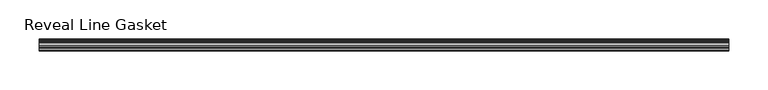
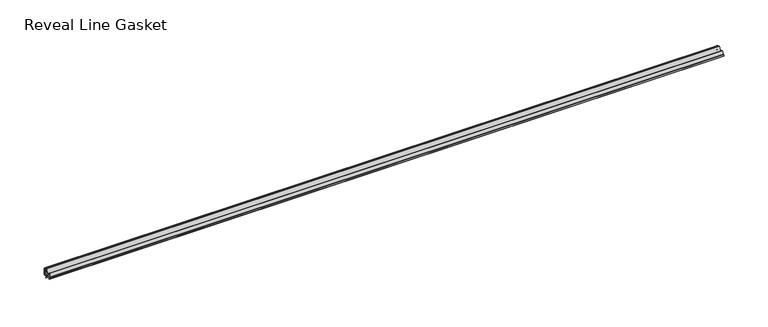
"""IFC4 building model written with IfcOpenShell, lengths in millimetres: proxy geometry, Accessories-Teknion-FHGR-AI_Healthcare-Reveal_Line_Gasket(Horizontal)-R2022 : Reveal Line Gasket."""

import ifcopenshell
import ifcopenshell.guid

model = None  # the IFC model being written
_history = None  # IfcOwnerHistory: only IFC2X3 demands one
_inside = {}  # id of a spatial element -> (the spatial element, [elements in it])
_under = {}  # id of a project, library or spatial element -> (it, [spatial elements below it])
_declared = {}  # id of a project -> (the project, [libraries it declares])
_typed = {}  # id of a type object -> (the type object, [elements of that type])
_made_of = {}  # id of a material, layer set ... -> (it, [elements and type objects made of it])


def new_model(schema):
    """Start an empty IFC model of exactly this schema.

    Asked for "IFC4X3", IfcOpenShell would pick the latest addendum, in which some entities
    have other attributes; the version numbers below select the first issue.
    IFC2X3 requires an IfcOwnerHistory on every rooted entity: one is made here for all.
    """
    global model, _history
    if schema == "IFC4X3":
        model = ifcopenshell.file(schema_version=(4, 3, 0, 0))
    else:
        model = ifcopenshell.file(schema=schema)
    _inside.clear()
    _under.clear()
    _declared.clear()
    _typed.clear()
    _made_of.clear()
    _history = None
    if model.schema == "IFC2X3":
        org = make("IfcOrganization", Name="unknown")
        user = make(
            "IfcPersonAndOrganization",
            ThePerson=make("IfcPerson", FamilyName="unknown"),
            TheOrganization=org,
        )
        app = make(
            "IfcApplication",
            ApplicationDeveloper=org,
            Version="unknown",
            ApplicationFullName="unknown",
            ApplicationIdentifier="unknown",
        )
        _history = make(
            "IfcOwnerHistory",
            OwningUser=user,
            OwningApplication=app,
            ChangeAction="ADDED",
            CreationDate=0,
        )
    return model


def make(cls, **values):
    """One entity of the class cls with the attributes given. An attribute that is None is left unset."""
    return model.create_entity(
        cls, **{name: value for name, value in values.items() if value is not None}
    )


def rooted(cls, **values):
    """An entity with a GlobalId (a new one), such as an element, a storey or a relation."""
    return make(cls, GlobalId=ifcopenshell.guid.new(), OwnerHistory=_history, **values)


def si_unit(unit_type, name, prefix=None):
    """IfcSIUnit, for example si_unit("LENGTHUNIT", "METRE", prefix="MILLI")."""
    return make("IfcSIUnit", UnitType=unit_type, Prefix=prefix, Name=name)


def assignment(units):
    """IfcUnitAssignment: the units of a project."""
    return None if units is None else make("IfcUnitAssignment", Units=units)


def point(xyz):
    """IfcCartesianPoint."""
    return None if xyz is None else make("IfcCartesianPoint", Coordinates=xyz)


def direction(xyz):
    """IfcDirection."""
    return None if xyz is None else make("IfcDirection", DirectionRatios=xyz)


def frame(location, z_axis=None, x_axis=None):
    """IfcAxis2Placement3D, a coordinate frame: its origin and axes. An axis left out is left unset."""
    return make(
        "IfcAxis2Placement3D",
        Location=point(location),
        Axis=direction(z_axis),
        RefDirection=direction(x_axis),
    )


def frame_2d(location, x_axis=None):
    """IfcAxis2Placement2D, a coordinate frame in the plane: its origin and x axis."""
    return make(
        "IfcAxis2Placement2D", Location=point(location), RefDirection=direction(x_axis)
    )


def origin():
    """The frame at (0, 0, 0) with its axes left unset."""
    return frame((0.0, 0.0, 0.0))


def place(relative_to, where):
    """IfcLocalPlacement: puts the frame where relative to a parent placement (None: the world)."""
    return make(
        "IfcLocalPlacement", PlacementRelTo=relative_to, RelativePlacement=where
    )


def context(
    kind, dimensions, precision=None, world=None, true_north=None, identifier=None
):
    """IfcGeometricRepresentationContext, for example the 3D "Model" context."""
    return make(
        "IfcGeometricRepresentationContext",
        ContextIdentifier=identifier,
        ContextType=kind,
        CoordinateSpaceDimension=dimensions,
        Precision=precision,
        WorldCoordinateSystem=world,
        TrueNorth=true_north,
    )


def project(units=None, contexts=None):
    """IfcProject with its units and contexts."""
    return rooted(
        "IfcProject",
        Name="project",
        RepresentationContexts=contexts,
        UnitsInContext=assignment(units),
    )


def spatial(cls, under=None, at=None, **own):
    """A site, building, storey or space (cls), placed at a placement, below another one or the project."""
    s = rooted(cls, ObjectPlacement=at, **own)
    if under is not None:
        _under.setdefault(under.id(), (under, []))[1].append(s)
    return s


def polyline(points):
    """IfcPolyline through the points."""
    return make("IfcPolyline", Points=[point(p) for p in points])


def circle_curve(where, radius):
    """IfcCircle in the frame where."""
    return make("IfcCircle", Position=where, Radius=radius)


def trimmed(basis, trim1, trim2, sense, master):
    """IfcTrimmedCurve: the piece of a basis curve between two trims."""
    return make(
        "IfcTrimmedCurve",
        BasisCurve=basis,
        Trim1=trim1,
        Trim2=trim2,
        SenseAgreement=sense,
        MasterRepresentation=master,
    )


def segment(curve, same_sense, transition):
    """IfcCompositeCurveSegment."""
    return make(
        "IfcCompositeCurveSegment",
        Transition=transition,
        SameSense=same_sense,
        ParentCurve=curve,
    )


def composite_curve(segments, self_intersect=None):
    """IfcCompositeCurve: segments joined end to end."""
    return make("IfcCompositeCurve", Segments=segments, SelfIntersect=self_intersect)


def outline(outer, holes=None, kind="AREA"):
    """IfcArbitraryClosedProfileDef: a profile drawn as a closed curve; with holes, ...WithVoids."""
    if holes is None:
        return make("IfcArbitraryClosedProfileDef", ProfileType=kind, OuterCurve=outer)
    return make(
        "IfcArbitraryProfileDefWithVoids",
        ProfileType=kind,
        OuterCurve=outer,
        InnerCurves=holes,
    )


def extrude(swept, where, along, depth):
    """IfcExtrudedAreaSolid: the profile swept, set in the frame where, extruded along a direction by depth."""
    return make(
        "IfcExtrudedAreaSolid",
        SweptArea=swept,
        Position=where,
        ExtrudedDirection=direction(along),
        Depth=depth,
    )


def shape(context_of_items, identifier, shape_type, items):
    """IfcShapeRepresentation: the items that make up one representation, for example the "Body"."""
    return make(
        "IfcShapeRepresentation",
        ContextOfItems=context_of_items,
        RepresentationIdentifier=identifier,
        RepresentationType=shape_type,
        Items=items,
    )


def source(mapping_origin, context_of_items, identifier, shape_type, items):
    """IfcRepresentationMap: a shape defined once, which mapped items show again and again."""
    return make(
        "IfcRepresentationMap",
        MappingOrigin=mapping_origin,
        MappedRepresentation=shape(context_of_items, identifier, shape_type, items),
    )


def transform(
    local_origin,
    x_axis=None,
    y_axis=None,
    z_axis=None,
    scale=None,
    scale2=None,
    scale3=None,
    uniform=True,
):
    """IfcCartesianTransformationOperator3D, or its non-uniform kind. x_axis, y_axis, z_axis: its Axis1, 2, 3."""
    if uniform:
        return make(
            "IfcCartesianTransformationOperator3D",
            Axis1=direction(x_axis),
            Axis2=direction(y_axis),
            LocalOrigin=point(local_origin),
            Scale=scale,
            Axis3=direction(z_axis),
        )
    return make(
        "IfcCartesianTransformationOperator3DnonUniform",
        Axis1=direction(x_axis),
        Axis2=direction(y_axis),
        LocalOrigin=point(local_origin),
        Scale=scale,
        Axis3=direction(z_axis),
        Scale2=scale2,
        Scale3=scale3,
    )


def mapped(mapping_source, mapping_target):
    """IfcMappedItem: shows the shape of a source again, moved by a transform."""
    return make(
        "IfcMappedItem", MappingSource=mapping_source, MappingTarget=mapping_target
    )


def made_of(thing, what):
    """Note that an element or type object is made of a material, layer set ...; save() writes the relation."""
    if what is not None:
        _made_of.setdefault(what.id(), (what, []))[1].append(thing)
    return thing


def element(
    cls,
    number,
    at=None,
    inside=None,
    cuts=None,
    type_object=None,
    material=None,
    context=None,
    identifier="Body",
    shape_type=None,
    held_by="IfcProductDefinitionShape",
    body=None,
    shapes=None,
    **own,
):
    """One element of the class cls, such as IfcWall. Its Tag is "e" and its number.

    at: its placement. inside: the storey or other place that contains it. cuts: it is an
    opening in that element (IfcRelVoidsElement). A single representation is given by context,
    identifier, shape_type and body (its items); several are given by shapes. held_by: the class
    of the entity that holds the representations. save() writes the other relations.
    """
    e = rooted(cls, Tag="e%d" % number, ObjectPlacement=at, **own)
    if body is not None:
        shapes = [shape(context, identifier, shape_type, body)]
    if shapes is not None:
        e.Representation = make(held_by, Representations=shapes)
    if inside is not None:
        _inside.setdefault(inside.id(), (inside, []))[1].append(e)
    if cuts is not None:
        rooted(
            "IfcRelVoidsElement", RelatingBuildingElement=cuts, RelatedOpeningElement=e
        )
    if type_object is not None:
        _typed.setdefault(type_object.id(), (type_object, []))[1].append(e)
    return made_of(e, material)


def aggregate(whole, parts):
    """IfcRelAggregates: a whole, such as a stair, and the parts it consists of."""
    return rooted("IfcRelAggregates", RelatingObject=whole, RelatedObjects=parts)


def save(model, path):
    """Write the relations noted so far, then the file.

    IfcRelAggregates (storeys below a building ...), IfcRelContainedInSpatialStructure (elements
    in a storey), IfcRelDefinesByType, IfcRelAssociatesMaterial and IfcRelDeclares: one each for
    every whole, place, type object, material and project.
    """
    for whole, parts in _under.values():
        aggregate(whole, parts)
    for where, things in _inside.values():
        rooted(
            "IfcRelContainedInSpatialStructure",
            RelatedElements=things,
            RelatingStructure=where,
        )
    for kind, things in _typed.values():
        rooted("IfcRelDefinesByType", RelatedObjects=things, RelatingType=kind)
    for what, things in _made_of.values():
        rooted("IfcRelAssociatesMaterial", RelatedObjects=things, RelatingMaterial=what)
    for by, libraries in _declared.values():
        rooted("IfcRelDeclares", RelatingContext=by, RelatedDefinitions=libraries)
    model.write(path)


def reveal_line_gasket_ffca1542(model_context):
    return source(origin(), model_context, "Body", "SweptSolid", [
        extrude(outline(composite_curve([segment(polyline([(7.6326998, 1603.2), (7.6326998, 1597.2), (7.4091917, 1596.2445073), (6.8813059, 1595.3115316)]), True, "CONTINUOUS"), segment(trimmed(circle_curve(frame_2d((6.5243141, 1595.5135207)), 0.4101739), [point((6.8813059, 1595.3115316))], [point((6.1246704, 1595.6058653))], False, "CARTESIAN"), True, "CONTINUOUS"), segment(polyline([(6.1246704, 1595.6058653), (6.3626997, 1597.3020914), (6.3626997, 1599.3345473)]), True, "CONTINUOUS"), segment(trimmed(circle_curve(frame_2d((5.6959605, 1598.9180742)), 0.786124), [point((6.3626997, 1599.3345473))], [point((5.0926996, 1599.422125))], True, "CARTESIAN"), True, "CONTINUOUS"), segment(polyline([(5.0926996, 1599.422125), (0.7492996, 1599.422125), (3.7293824, 1594.2604705)]), True, "CONTINUOUS"), segment(trimmed(circle_curve(frame_2d((3.3132479, 1594.1950239)), 0.4212495), [point((3.7293824, 1594.2604705))], [point((3.0485022, 1593.8673642))], False, "CARTESIAN"), True, "CONTINUOUS"), segment(polyline([(3.0485022, 1593.8673642), (-0.5742594, 1599.422125), (-4.8262978, 1599.422125), (-3.1660374, 1596.5464703)]), True, "CONTINUOUS"), segment(trimmed(circle_curve(frame_2d((-3.5978728, 1596.4881145)), 0.4357605), [point((-3.1660374, 1596.5464703))], [point((-3.864328, 1596.1433119))], False, "CARTESIAN"), True, "CONTINUOUS"), segment(polyline([(-3.864328, 1596.1433119), (-6.1944059, 1599.422125), (-7.6326998, 1599.422125), (-7.6326998, 1600.977875), (-6.1944059, 1600.977875), (-3.864328, 1604.2566881)]), True, "CONTINUOUS"), segment(trimmed(circle_curve(frame_2d((-3.5978728, 1603.9118855)), 0.4357605), [point((-3.864328, 1604.2566881))], [point((-3.1660374, 1603.8535297))], False, "CARTESIAN"), True, "CONTINUOUS"), segment(polyline([(-3.1660374, 1603.8535297), (-4.8262978, 1600.977875), (-0.5742594, 1600.977875), (3.0485022, 1606.5326358)]), True, "CONTINUOUS"), segment(trimmed(circle_curve(frame_2d((3.3132479, 1606.2049761)), 0.4212495), [point((3.0485022, 1606.5326358))], [point((3.7293824, 1606.1395295))], False, "CARTESIAN"), True, "CONTINUOUS"), segment(polyline([(3.7293824, 1606.1395295), (0.7492996, 1600.977875), (5.0926996, 1600.977875)]), True, "CONTINUOUS"), segment(trimmed(circle_curve(frame_2d((5.6959605, 1601.4819258)), 0.786124), [point((5.0926996, 1600.977875))], [point((6.3626997, 1601.0654527))], True, "CARTESIAN"), True, "CONTINUOUS"), segment(polyline([(6.3626997, 1601.0654527), (6.3626997, 1603.0979086), (6.1246704, 1604.7941347)]), True, "CONTINUOUS"), segment(trimmed(circle_curve(frame_2d((6.5243141, 1604.8864793)), 0.4101739), [point((6.1246704, 1604.7941347))], [point((6.8813059, 1605.0884684))], False, "CARTESIAN"), True, "CONTINUOUS"), segment(polyline([(6.8813059, 1605.0884684), (7.4091917, 1604.1554927), (7.6326998, 1603.2)]), True, "CONTINUOUS")], self_intersect=False)), frame((-439.5049898, 0.0, 0.0), z_axis=(1.0, 0.0, 0.0), x_axis=(0.0, 1.0, 0.0)), (0.0, 0.0, 1.0), 879.0099795),
    ])


if __name__ == "__main__":
    model = new_model("IFC4")
    model_context = context("Model", 3, world=origin())
    ifc_project = project(units=[si_unit("LENGTHUNIT", "METRE", prefix="MILLI")], contexts=[model_context])
    site = spatial("IfcSite", under=ifc_project)
    building = spatial("IfcBuilding", under=site)
    placement = place(None, origin())
    reveal_line_gasket_shape = reveal_line_gasket_ffca1542(model_context)
    element("IfcBuildingElementProxy", 1, Name="Accessories-Teknion-FHGR-AI_Healthcare-Reveal_Line_Gasket(Horizontal)-R2022 : Reveal Line Gasket", ObjectType="Accessories-Teknion-FHGR-AI_Healthcare-Reveal_Line_Gasket(Horizontal)-R2022 : Reveal Line Gasket", at=placement, inside=building, context=model_context, shape_type="MappedRepresentation", body=[
        mapped(reveal_line_gasket_shape, transform((0.0, 0.0, 0.0), x_axis=(1.0, 0.0, 0.0), y_axis=(0.0, 1.0, 0.0), z_axis=(0.0, 0.0, 1.0))),
    ])
    save(model, "model.ifc")
